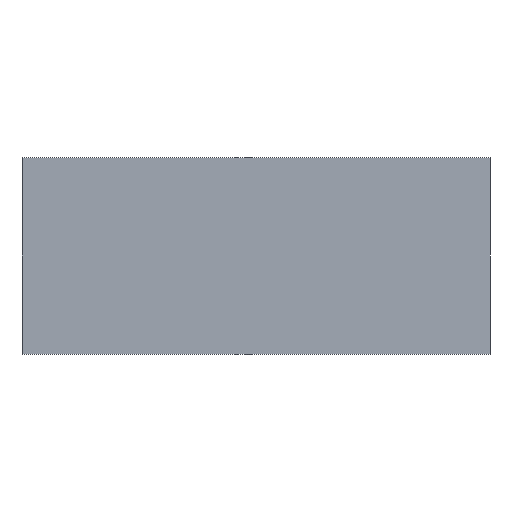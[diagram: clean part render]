
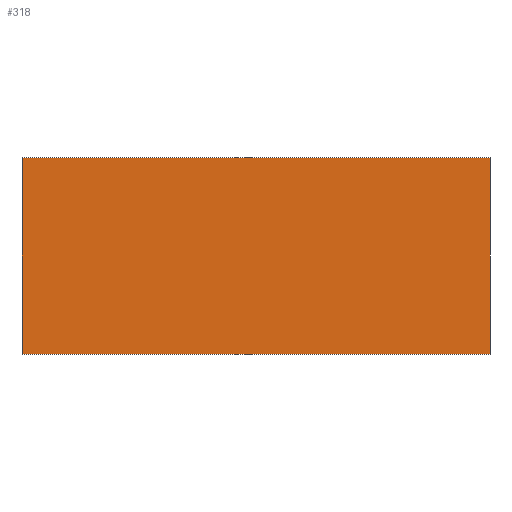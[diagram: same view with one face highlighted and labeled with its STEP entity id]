
A CAD part, front view. The second image highlights one B-rep face of the part: STEP entity #318.
In plain terms, the highlighted planar face has unit normal (0, -1, 0).
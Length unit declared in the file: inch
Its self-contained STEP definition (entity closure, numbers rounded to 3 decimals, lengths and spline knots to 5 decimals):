
#162 = DIRECTION ( 'NONE',  ( 0., 0., 1. ) ) ;
#172 = ORIENTED_EDGE ( 'NONE', *, *, #1592, .T. ) ;
#181 = LINE ( 'NONE', #2109, #2208 ) ;
#189 = ORIENTED_EDGE ( 'NONE', *, *, #1399, .T. ) ;
#318 = ADVANCED_FACE ( 'NONE', ( #2258 ), #2770, .F. ) ;
#553 = ORIENTED_EDGE ( 'NONE', *, *, #810, .T. ) ;
#608 = VERTEX_POINT ( 'NONE', #2621 ) ;
#780 = VERTEX_POINT ( 'NONE', #2472 ) ;
#810 = EDGE_CURVE ( 'NONE', #608, #1320, #181, .T. ) ;
#850 = DIRECTION ( 'NONE',  ( 0., 0., 1. ) ) ;
#883 = AXIS2_PLACEMENT_3D ( 'NONE', #1258, #1048, #162 ) ;
#944 = LINE ( 'NONE', #1819, #1741 ) ;
#971 = VERTEX_POINT ( 'NONE', #2214 ) ;
#1048 = DIRECTION ( 'NONE',  ( 0., 1., 0. ) ) ;
#1258 = CARTESIAN_POINT ( 'NONE',  ( -17.98445, -4.54, 6.969 ) ) ;
#1309 = DIRECTION ( 'NONE',  ( 1., 0., 0. ) ) ;
#1320 = VERTEX_POINT ( 'NONE', #2714 ) ;
#1399 = EDGE_CURVE ( 'NONE', #1320, #780, #944, .T. ) ;
#1468 = EDGE_CURVE ( 'NONE', #780, #971, #1675, .T. ) ;
#1512 = VECTOR ( 'NONE', #1309, 39.37008 ) ;
#1592 = EDGE_CURVE ( 'NONE', #971, #608, #1843, .T. ) ;
#1675 = LINE ( 'NONE', #2119, #2251 ) ;
#1741 = VECTOR ( 'NONE', #2469, 39.37008 ) ;
#1819 = CARTESIAN_POINT ( 'NONE',  ( -18.96545, -4.54, 7.95 ) ) ;
#1843 = LINE ( 'NONE', #2477, #1512 ) ;
#1955 = DIRECTION ( 'NONE',  ( 0., 0., -1. ) ) ;
#2109 = CARTESIAN_POINT ( 'NONE',  ( 18.96545, -4.54, -7.95 ) ) ;
#2119 = CARTESIAN_POINT ( 'NONE',  ( -18.96545, -4.54, -7.95 ) ) ;
#2208 = VECTOR ( 'NONE', #850, 39.37008 ) ;
#2214 = CARTESIAN_POINT ( 'NONE',  ( -18.96545, -4.54, -7.95 ) ) ;
#2251 = VECTOR ( 'NONE', #1955, 39.37008 ) ;
#2258 = FACE_OUTER_BOUND ( 'NONE', #2531, .T. ) ;
#2469 = DIRECTION ( 'NONE',  ( -1., 0., 0. ) ) ;
#2472 = CARTESIAN_POINT ( 'NONE',  ( -18.96545, -4.54, 7.95 ) ) ;
#2477 = CARTESIAN_POINT ( 'NONE',  ( -18.96545, -4.54, -7.95 ) ) ;
#2531 = EDGE_LOOP ( 'NONE', ( #2610, #172, #553, #189 ) ) ;
#2610 = ORIENTED_EDGE ( 'NONE', *, *, #1468, .T. ) ;
#2621 = CARTESIAN_POINT ( 'NONE',  ( 18.96545, -4.54, -7.95 ) ) ;
#2714 = CARTESIAN_POINT ( 'NONE',  ( 18.96545, -4.54, 7.95 ) ) ;
#2770 = PLANE ( 'NONE',  #883 ) ;
